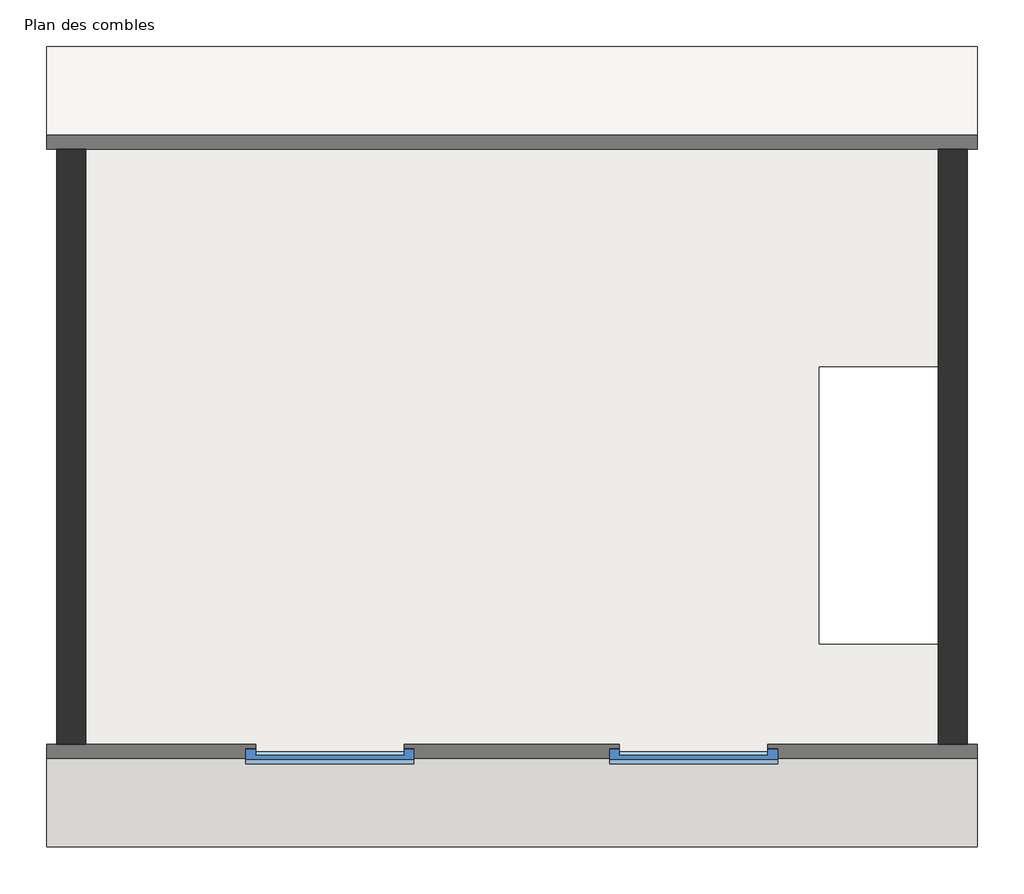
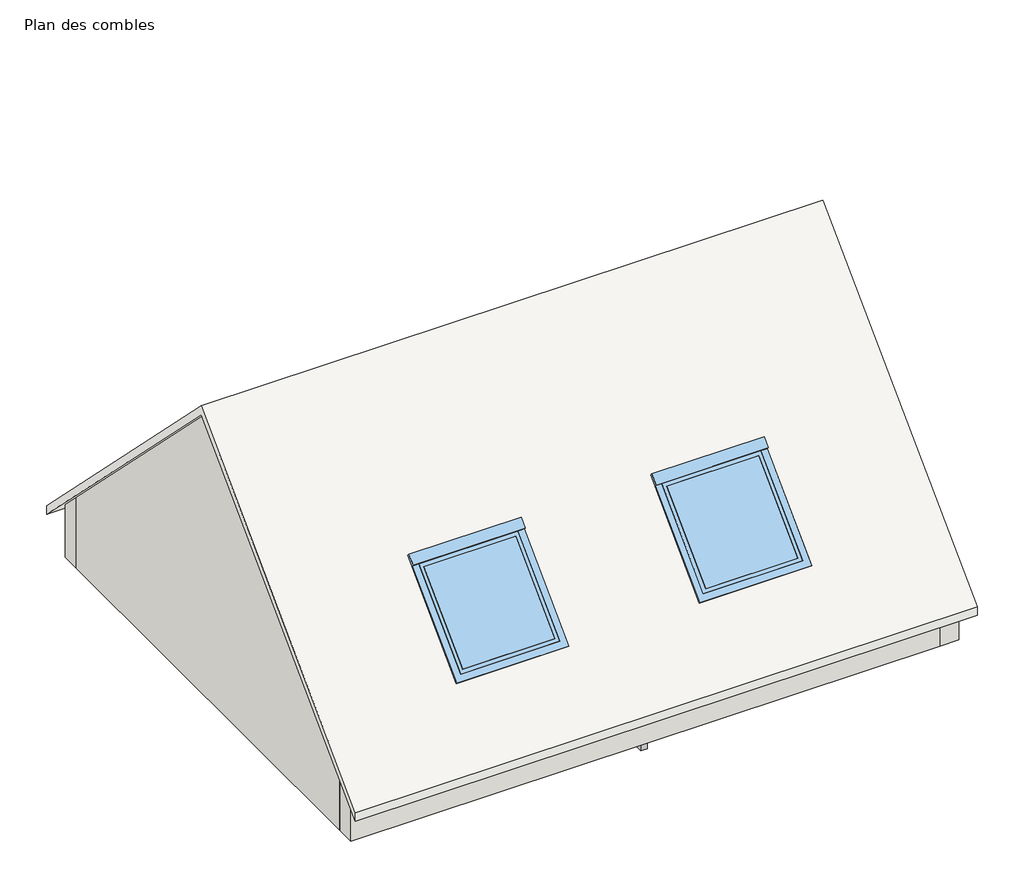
# One storey: 4 walls, 2 beams, 2 windows, 1 roof, 1 slab.
"""IFC4 building model written with IfcOpenShell, lengths in millimetres."""

from ifc_helpers import new_model, si_unit, frame, origin, place, context, project, spatial, polyline, outline, extrude, faceted_brep, transform, mapped, element, save
from components import beam_75x225_0be4e628, beam_75x225_f119eb32, velux_114_x_118_b14f580e

model = new_model("IFC4")

# Units and contexts
model_context = context("Model", 3, world=origin())
ifc_project = project(units=[si_unit("LENGTHUNIT", "METRE", prefix="MILLI")], contexts=[model_context])

# Site, building, storey
site = spatial("IfcSite", under=ifc_project)
building = spatial("IfcBuilding", under=site)
storey = spatial("IfcBuildingStorey", under=building, Name="Plan des combles", Elevation=2740.0)

# Beams
placement = place(None, origin())
beam_75x225_shape = beam_75x225_0be4e628(model_context)
element("IfcBeam", 1, ObjectType="Madrier : 75x225", at=placement, inside=storey, context=model_context, shape_type="MappedRepresentation", body=[
    mapped(beam_75x225_shape, transform((-85.0276062, 27201.9326555, 2607.5), x_axis=(0.0, -1.0, 0.0), y_axis=(1.0, 0.0, 0.0), z_axis=(0.0, 0.0, 1.0))),
])
beam_75x225_2_shape = beam_75x225_f119eb32(model_context)
element("IfcBeam", 2, ObjectType="Madrier : 75x225", at=placement, inside=storey, context=model_context, shape_type="MappedRepresentation", body=[
    mapped(beam_75x225_2_shape, transform((-84.210365, 24461.9326555, 2607.5), x_axis=(0.0, -1.0, 0.0), y_axis=(1.0, 0.0, 0.0), z_axis=(0.0, 0.0, 1.0))),
])

# Roof
element("IfcRoof", 3, ObjectType="Toit  couverture ardoise", at=placement, inside=storey, context=model_context, shape_type="Brep", body=[
    faceted_brep([(-3665.0276062, 25826.9326555, 6230.0), (-3665.0276062, 28906.9326555, 3150.0), (3494.9723938, 28906.9326555, 3150.0), (3494.9723938, 25826.9326555, 6230.0), (3494.9723938, 22746.9326555, 3150.0), (-3665.0276062, 22746.9326555, 3150.0), (-915.0276062, 23478.9471501, 3882.0144946), (-915.0276062, 24341.2170286, 4744.2843731), (-2055.0276062, 24341.2170286, 4744.2843731), (-2055.0276062, 23478.9471501, 3882.0144946), (1881.1723938, 23478.9471501, 3882.0144946), (1881.1723938, 24341.2170286, 4744.2843731), (741.1723938, 24341.2170286, 4744.2843731), (741.1723938, 23478.9471501, 3882.0144946), (-3665.0276062, 28906.9326555, 3256.0660172), (-3665.0276062, 25826.9326555, 6336.0660172), (3494.9723938, 25826.9326555, 6336.0660172), (3494.9723938, 28906.9326555, 3256.0660172), (-3665.0276062, 22746.9326555, 3256.0660172), (3494.9723938, 22746.9326555, 3256.0660172), (-838.8276062, 23389.7102743, 3898.8436359), (-2131.2276062, 23389.7102743, 3898.8436359), (-2131.2276062, 24362.8306265, 4871.9639882), (-838.8276062, 24362.8306265, 4871.9639882), (1957.3723938, 23389.7102743, 3898.8436359), (664.9723938, 23389.7102743, 3898.8436359), (664.9723938, 24362.8306265, 4871.9639882), (1957.3723938, 24362.8306265, 4871.9639882), (-915.0276062, 24313.3331519, 4751.7558354), (-915.0276062, 23478.9471501, 3917.3698336), (-2055.0276062, 24313.3331519, 4751.7558354), (-2055.0276062, 23478.9471501, 3917.3698336), (-2131.2276062, 23425.0656133, 3863.4882969), (-838.8276062, 23425.0656133, 3863.4882969), (-838.8276062, 24398.1859656, 4836.6086492), (-2131.2276062, 24398.1859656, 4836.6086492), (1881.1723938, 24313.3331519, 4751.7558354), (1881.1723938, 23478.9471501, 3917.3698336), (741.1723938, 24313.3331519, 4751.7558354), (741.1723938, 23478.9471501, 3917.3698336), (664.9723938, 23425.0656133, 3863.4882969), (1957.3723938, 23425.0656133, 3863.4882969), (1957.3723938, 24398.1859656, 4836.6086492), (664.9723938, 24398.1859656, 4836.6086492)], [[[0, 1, 2, 3]], [[4, 5, 0, 3], [6, 7, 8, 9], [10, 11, 12, 13]], [[14, 15, 16, 17]], [[18, 19, 16, 15], [20, 21, 22, 23], [24, 25, 26, 27]], [[4, 19, 18, 5]], [[1, 14, 17, 2]], [[18, 15, 14, 1, 0, 5]], [[17, 16, 19, 4, 3, 2]], [[28, 7, 6, 29]], [[8, 30, 31, 9]], [[7, 28, 30, 8]], [[29, 6, 9, 31]], [[32, 33, 34, 35], [28, 29, 31, 30]], [[33, 32, 21, 20]], [[34, 33, 20, 23]], [[35, 34, 23, 22]], [[32, 35, 22, 21]], [[36, 11, 10, 37]], [[12, 38, 39, 13]], [[11, 36, 38, 12]], [[37, 10, 13, 39]], [[40, 41, 42, 43], [36, 37, 39, 38]], [[41, 40, 25, 24]], [[42, 41, 24, 27]], [[43, 42, 27, 26]], [[40, 43, 26, 25]]]),
])

# Slab
element("IfcSlab", 4, ObjectType="Plancher bois OSB", at=placement, inside=storey, context=model_context, shape_type="SweptSolid", body=[
    extrude(outline(polyline([(3194.9723938, 28456.9326555), (3194.9723938, 26444.4326555), (2274.9723938, 26444.4326555), (2274.9723938, 24304.4326555), (3194.9723938, 24304.4326555), (3194.9723938, 23196.9326555), (-3365.0276062, 23196.9326555), (-3365.0276062, 28456.9326555), (3194.9723938, 28456.9326555)])), frame((0.0, 0.0, 2720.0), z_axis=(0.0, 0.0, 1.0), x_axis=(1.0, 0.0, 0.0)), (0.0, 0.0, 1.0), 20.0),
])

# Walls
element("IfcWall", 5, ObjectType="EXTERIEUR BBM 20 cm+  ENDUIT", at=placement, inside=storey, context=model_context, shape_type="Brep", body=[
    faceted_brep([(-3585.0276062, 28456.9326555, 2740.0), (-3365.0276062, 28456.9326555, 2740.0), (3194.9723938, 28456.9326555, 2740.0), (3414.9723938, 28456.9326555, 2740.0), (3414.9723938, 28456.9326555, 3600.0), (3194.9723938, 28456.9326555, 3600.0), (-3365.0276062, 28456.9326555, 3600.0), (-3585.0276062, 28456.9326555, 3600.0), (-3585.0276062, 28676.9326555, 2740.0), (-3585.0276062, 28676.9326555, 3380.0), (3414.9723938, 28676.9326555, 3380.0), (3414.9723938, 28676.9326555, 2740.0)], [[[0, 1, 2, 3, 4, 5, 6, 7]], [[8, 9, 10, 11]], [[3, 2, 1, 0, 8, 11]], [[4, 3, 11, 10]], [[0, 7, 9, 8]], [[7, 6, 5, 4, 10, 9]]]),
])
element("IfcWall", 6, ObjectType="EXTERIEUR BBM 20 cm+  ENDUIT", at=placement, inside=storey, context=model_context, shape_type="Brep", body=[
    faceted_brep([(3194.9723938, 28456.9326555, 2740.0), (3194.9723938, 23196.9326555, 2740.0), (3194.9723938, 22976.9326555, 2740.0), (3194.9723938, 22976.9326555, 3380.0), (3194.9723938, 23196.9326555, 3600.0), (3194.9723938, 25826.9326555, 6230.0), (3194.9723938, 28456.9326555, 3600.0), (3414.9723938, 28456.9326555, 2740.0), (3414.9723938, 28456.9326555, 3600.0), (3414.9723938, 25826.9326555, 6230.0), (3414.9723938, 22976.9326555, 3380.0), (3414.9723938, 22976.9326555, 2740.0)], [[[0, 1, 2, 3, 4, 5, 6]], [[7, 8, 9, 10, 11]], [[2, 1, 0, 7, 11]], [[3, 2, 11, 10]], [[0, 6, 8, 7]], [[6, 5, 9, 8]], [[5, 4, 3, 10, 9]]]),
])
element("IfcWall", 7, ObjectType="EXTERIEUR BBM 20 cm+  ENDUIT", at=placement, inside=storey, context=model_context, shape_type="Brep", body=[
    faceted_brep([(3194.9723938, 23196.9326555, 2740.0), (-3365.0276062, 23196.9326555, 2740.0), (-3585.0276062, 23196.9326555, 2740.0), (-3585.0276062, 23196.9326555, 3600.0), (-3365.0276062, 23196.9326555, 3600.0), (3194.9723938, 23196.9326555, 3600.0), (3194.9723938, 22976.9326555, 2740.0), (3194.9723938, 22976.9326555, 3380.0), (-3585.0276062, 22976.9326555, 3380.0), (-3585.0276062, 22976.9326555, 2740.0)], [[[0, 1, 2, 3, 4, 5]], [[6, 7, 8, 9]], [[2, 1, 0, 6, 9]], [[3, 2, 9, 8]], [[0, 5, 7, 6]], [[5, 4, 3, 8, 7]]]),
])
element("IfcWall", 8, ObjectType="EXTERIEUR BBM 20 cm+  ENDUIT", at=placement, inside=storey, context=model_context, shape_type="SweptSolid", body=[
    extrude(outline(polyline([(23196.9326555, 2740.0), (23196.9326555, 3600.0), (25826.9326555, 6230.0), (28456.9326555, 3600.0), (28456.9326555, 2740.0), (23196.9326555, 2740.0)])), frame((-3585.0276062, 0.0, 0.0), z_axis=(1.0, 0.0, 0.0), x_axis=(0.0, 1.0, 0.0)), (0.0, 0.0, 1.0), 220.0),
])

# Windows
velux_114_x_118_shape = velux_114_x_118_b14f580e(model_context)
element("IfcWindow", 9, ObjectType="FR_Fenetre de Toit : velux 114 x 118", at=placement, inside=storey, context=model_context, shape_type="MappedRepresentation", body=[
    mapped(velux_114_x_118_shape, transform((1311.1723938, 26500.1315834, 1730.5714021), x_axis=(0.0, 0.7071067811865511, 0.707106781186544), y_axis=(-1.0000000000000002, 0.0, 0.0), z_axis=(0.0, -0.707106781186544, 0.7071067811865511))),
])
element("IfcWindow", 10, ObjectType="FR_Fenetre de Toit : velux 114 x 118", at=placement, inside=storey, context=model_context, shape_type="MappedRepresentation", body=[
    mapped(velux_114_x_118_shape, transform((-1485.0276062, 26500.1315834, 1730.5714021), x_axis=(0.0, 0.7071067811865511, 0.707106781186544), y_axis=(-1.0000000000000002, 0.0, 0.0), z_axis=(0.0, -0.707106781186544, 0.7071067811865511))),
])

save(model, "model.ifc")
